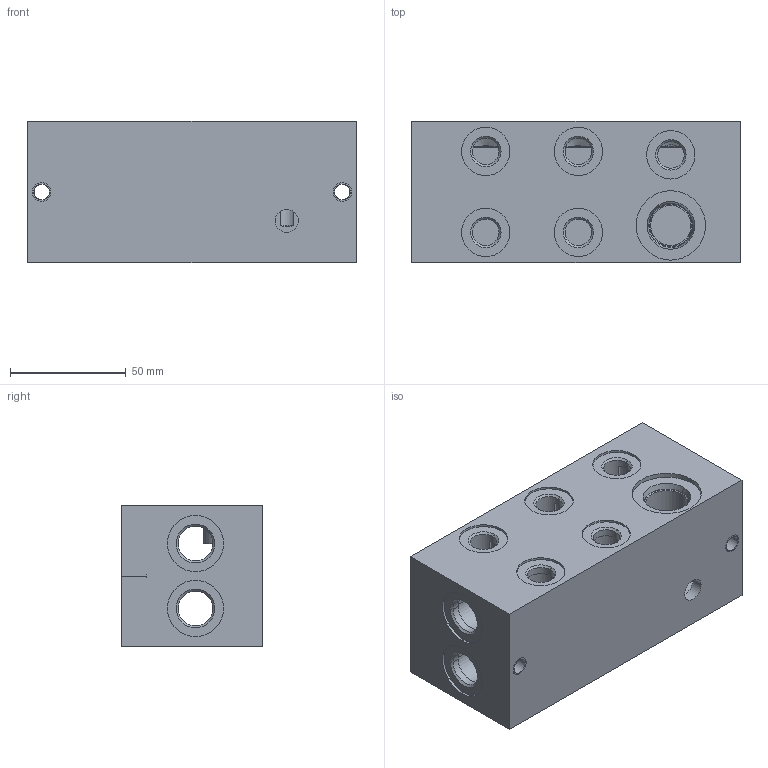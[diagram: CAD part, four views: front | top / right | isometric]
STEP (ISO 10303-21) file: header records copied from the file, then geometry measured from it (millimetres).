
FILE_DESCRIPTION((''),'2;1');
FILE_NAME('760_6920','2015-11-27T',('Ahcz.brigadnik05'),(''),'PRO/ENGINEER BY PARAMETRIC TECHNOLOGY CORPORATION, 2015110','PRO/ENGINEER BY PARAMETRIC TECHNOLOGY CORPORATION, 2015110','');
FILE_SCHEMA(('AUTOMOTIVE_DESIGN { 1 0 10303 214 1 1 1 1 }'));
Length unit declared in the file: millimetre
Products named in the file (1): 760_6920
Bounding box: 142 x 61 x 61 mm (x, y, z)
Volume: 204943.5 mm3; surface area: 84889.9 mm2
Topology: 1 solids, 25 shells, 234 faces, 1232 edges, 1121 vertices
Faces by surface type: cylinder 145, plane 52, cone 37
Entity records: 13448 total; most frequent: CARTESIAN_POINT 2567, DIRECTION 2018, ORIENTED_EDGE 1210, VECTOR 816, LINE 816, EDGE_CURVE 653, AXIS2_PLACEMENT_3D 601, TRIMMED_CURVE 574
